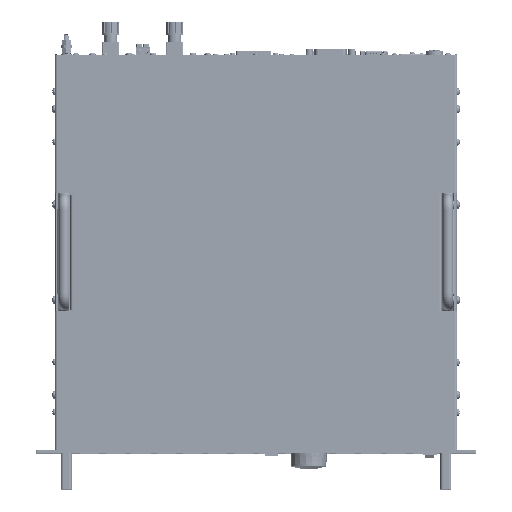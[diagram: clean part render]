
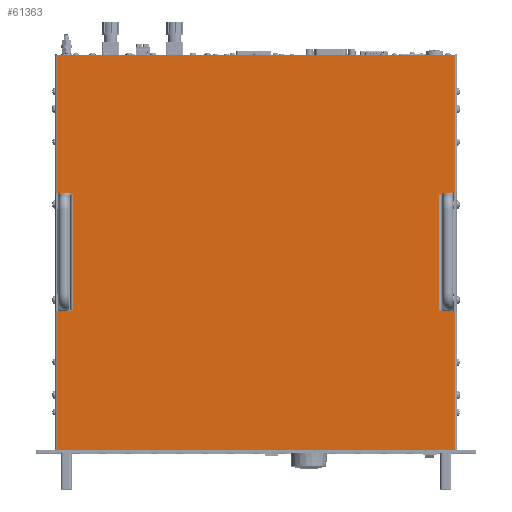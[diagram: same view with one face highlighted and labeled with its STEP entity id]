
A CAD part, top view. The second image highlights one B-rep face of the part: STEP entity #61363.
In plain terms, the highlighted planar face has unit normal (0, 0, 1).
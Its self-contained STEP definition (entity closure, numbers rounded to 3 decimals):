
#61363=ADVANCED_FACE('',(#126413),#126414,.F.);
#126413=FACE_OUTER_BOUND('',#227139,.T.);
#126414=PLANE('',#227140);
#227139=EDGE_LOOP('',(#398217,#398218,#398219,#398220,#398221,#398222,#398223,#398224,#398225,#398226,#398227,#398228,#398229,#398230,#398231,#398232,#398233,#398234,#398235,#398236));
#227140=AXIS2_PLACEMENT_3D('',#398237,#398238,#398239);
#398217=ORIENTED_EDGE('',*,*,#488670,.T.);
#398218=ORIENTED_EDGE('',*,*,#488690,.F.);
#398219=ORIENTED_EDGE('',*,*,#488691,.F.);
#398220=ORIENTED_EDGE('',*,*,#488334,.F.);
#398221=ORIENTED_EDGE('',*,*,#488656,.F.);
#398222=ORIENTED_EDGE('',*,*,#488319,.F.);
#398223=ORIENTED_EDGE('',*,*,#488645,.F.);
#398224=ORIENTED_EDGE('',*,*,#488692,.F.);
#398225=ORIENTED_EDGE('',*,*,#488688,.T.);
#398226=ORIENTED_EDGE('',*,*,#488683,.F.);
#398227=ORIENTED_EDGE('',*,*,#488680,.T.);
#398228=ORIENTED_EDGE('',*,*,#488693,.F.);
#398229=ORIENTED_EDGE('',*,*,#488621,.F.);
#398230=ORIENTED_EDGE('',*,*,#488309,.F.);
#398231=ORIENTED_EDGE('',*,*,#488610,.F.);
#398232=ORIENTED_EDGE('',*,*,#488329,.F.);
#398233=ORIENTED_EDGE('',*,*,#488694,.F.);
#398234=ORIENTED_EDGE('',*,*,#488695,.F.);
#398235=ORIENTED_EDGE('',*,*,#488667,.T.);
#398236=ORIENTED_EDGE('',*,*,#488675,.T.);
#398237=CARTESIAN_POINT('',(239.8,220.125,86.465));
#398238=DIRECTION('',(0.,0.,-1.0));
#398239=DIRECTION('',(1.0,0.,0.));
#488309=EDGE_CURVE('',#591848,#591850,#591851,.T.);
#488319=EDGE_CURVE('',#591866,#591868,#591869,.T.);
#488329=EDGE_CURVE('',#591884,#591886,#591887,.T.);
#488334=EDGE_CURVE('',#591893,#591895,#591896,.T.);
#488610=EDGE_CURVE('',#591886,#591848,#592326,.T.);
#488621=EDGE_CURVE('',#591850,#592341,#592342,.T.);
#488645=EDGE_CURVE('',#592374,#591866,#592376,.T.);
#488656=EDGE_CURVE('',#591868,#591893,#592391,.T.);
#488667=EDGE_CURVE('',#592402,#592405,#592407,.T.);
#488670=EDGE_CURVE('',#592412,#592409,#592413,.T.);
#488675=EDGE_CURVE('',#592405,#592412,#592418,.T.);
#488680=EDGE_CURVE('',#592424,#592422,#592425,.T.);
#488683=EDGE_CURVE('',#592424,#592428,#592429,.T.);
#488688=EDGE_CURVE('',#592434,#592428,#592436,.T.);
#488690=EDGE_CURVE('',#592438,#592409,#592439,.T.);
#488691=EDGE_CURVE('',#591895,#592438,#592440,.T.);
#488692=EDGE_CURVE('',#592434,#592374,#592441,.T.);
#488693=EDGE_CURVE('',#592341,#592422,#592442,.T.);
#488694=EDGE_CURVE('',#592443,#591884,#592444,.T.);
#488695=EDGE_CURVE('',#592402,#592443,#592445,.T.);
#591848=VERTEX_POINT('',#737116);
#591850=VERTEX_POINT('',#737118);
#591851=LINE('',#737119,#737120);
#591866=VERTEX_POINT('',#737138);
#591868=VERTEX_POINT('',#737140);
#591869=LINE('',#737141,#737142);
#591884=VERTEX_POINT('',#737160);
#591886=VERTEX_POINT('',#737162);
#591887=LINE('',#737163,#737164);
#591893=VERTEX_POINT('',#737171);
#591895=VERTEX_POINT('',#737173);
#591896=LINE('',#737174,#737175);
#592326=LINE('',#737726,#737727);
#592341=VERTEX_POINT('',#737747);
#592342=LINE('',#737748,#737749);
#592374=VERTEX_POINT('',#737795);
#592376=LINE('',#737798,#737799);
#592391=LINE('',#737819,#737820);
#592402=VERTEX_POINT('',#737835);
#592405=VERTEX_POINT('',#737839);
#592407=LINE('',#737841,#737842);
#592409=VERTEX_POINT('',#737844);
#592412=VERTEX_POINT('',#737848);
#592413=LINE('',#737849,#737850);
#592418=LINE('',#737855,#737856);
#592422=VERTEX_POINT('',#737861);
#592424=VERTEX_POINT('',#737864);
#592425=LINE('',#737865,#737866);
#592428=VERTEX_POINT('',#737869);
#592429=LINE('',#737870,#737871);
#592434=VERTEX_POINT('',#737876);
#592436=LINE('',#737879,#737880);
#592438=VERTEX_POINT('',#737882);
#592439=LINE('',#737883,#737884);
#592440=LINE('',#737885,#737886);
#592441=LINE('',#737887,#737888);
#592442=LINE('',#737889,#737890);
#592443=VERTEX_POINT('',#737891);
#592444=LINE('',#737892,#737893);
#592445=LINE('',#737894,#737895);
#737116=CARTESIAN_POINT('',(22.123,3.5,86.465));
#737118=CARTESIAN_POINT('',(22.123,155.5,86.465));
#737119=CARTESIAN_POINT('',(22.123,149.813,86.465));
#737120=VECTOR('',#836402,1.0);
#737138=CARTESIAN_POINT('',(22.123,284.75,86.465));
#737140=CARTESIAN_POINT('',(22.123,436.75,86.465));
#737141=CARTESIAN_POINT('',(22.123,290.438,86.465));
#737142=VECTOR('',#836418,1.0);
#737160=CARTESIAN_POINT('',(457.477,155.5,86.465));
#737162=CARTESIAN_POINT('',(457.477,3.5,86.465));
#737163=CARTESIAN_POINT('',(457.477,149.813,86.465));
#737164=VECTOR('',#836434,1.0);
#737171=CARTESIAN_POINT('',(457.477,436.75,86.465));
#737173=CARTESIAN_POINT('',(457.477,284.75,86.465));
#737174=CARTESIAN_POINT('',(457.477,290.438,86.465));
#737175=VECTOR('',#836442,1.0);
#737726=CARTESIAN_POINT('',(460.227,3.5,86.465));
#737727=VECTOR('',#836828,1.0);
#737747=CARTESIAN_POINT('',(37.373,155.5,86.465));
#737748=CARTESIAN_POINT('',(19.373,155.5,86.465));
#737749=VECTOR('',#836846,1.0);
#737795=CARTESIAN_POINT('',(37.373,284.75,86.465));
#737798=CARTESIAN_POINT('',(37.373,284.75,86.465));
#737799=VECTOR('',#836874,1.0);
#737819=CARTESIAN_POINT('',(19.373,436.75,86.465));
#737820=VECTOR('',#836892,1.0);
#737835=CARTESIAN_POINT('',(442.227,157.5,86.465));
#737839=CARTESIAN_POINT('',(440.477,157.5,86.465));
#737841=CARTESIAN_POINT('',(341.093,157.5,86.465));
#737842=VECTOR('',#836904,1.0);
#737844=CARTESIAN_POINT('',(442.227,282.75,86.465));
#737848=CARTESIAN_POINT('',(440.477,282.75,86.465));
#737849=CARTESIAN_POINT('',(341.093,282.75,86.465));
#737850=VECTOR('',#836906,1.0);
#737855=CARTESIAN_POINT('',(440.477,220.125,86.465));
#737856=VECTOR('',#836916,1.0);
#737861=CARTESIAN_POINT('',(37.373,157.5,86.465));
#737864=CARTESIAN_POINT('',(39.123,157.5,86.465));
#737865=CARTESIAN_POINT('',(138.507,157.5,86.465));
#737866=VECTOR('',#836919,1.0);
#737869=CARTESIAN_POINT('',(39.123,282.75,86.465));
#737870=CARTESIAN_POINT('',(39.123,220.125,86.465));
#737871=VECTOR('',#836923,1.0);
#737876=CARTESIAN_POINT('',(37.373,282.75,86.465));
#737879=CARTESIAN_POINT('',(138.507,282.75,86.465));
#737880=VECTOR('',#836931,1.0);
#737882=CARTESIAN_POINT('',(442.227,284.75,86.465));
#737883=CARTESIAN_POINT('',(442.227,284.75,86.465));
#737884=VECTOR('',#836932,1.0);
#737885=CARTESIAN_POINT('',(460.227,284.75,86.465));
#737886=VECTOR('',#836933,1.0);
#737887=CARTESIAN_POINT('',(37.373,282.75,86.465));
#737888=VECTOR('',#836934,1.0);
#737889=CARTESIAN_POINT('',(37.373,155.5,86.465));
#737890=VECTOR('',#836935,1.0);
#737891=CARTESIAN_POINT('',(442.227,155.5,86.465));
#737892=CARTESIAN_POINT('',(442.227,155.5,86.465));
#737893=VECTOR('',#836936,1.0);
#737894=CARTESIAN_POINT('',(442.227,157.5,86.465));
#737895=VECTOR('',#836937,1.0);
#836402=DIRECTION('',(0.0,1.0,0.));
#836418=DIRECTION('',(0.0,1.0,0.));
#836434=DIRECTION('',(0.0,-1.0,0.));
#836442=DIRECTION('',(0.0,-1.0,0.));
#836828=DIRECTION('',(-1.0,0.0,0.));
#836846=DIRECTION('',(1.0,0.0,0.0));
#836874=DIRECTION('',(-1.0,0.0,0.0));
#836892=DIRECTION('',(1.0,0.0,0.0));
#836904=DIRECTION('',(-1.0,0.0,0.0));
#836906=DIRECTION('',(1.0,0.0,0.0));
#836916=DIRECTION('',(0.0,1.0,0.));
#836919=DIRECTION('',(-1.0,0.0,0.0));
#836923=DIRECTION('',(0.0,1.0,0.));
#836931=DIRECTION('',(1.0,0.0,0.0));
#836932=DIRECTION('',(0.0,-1.0,0.));
#836933=DIRECTION('',(-1.0,0.0,0.0));
#836934=DIRECTION('',(0.0,1.0,0.));
#836935=DIRECTION('',(0.0,1.0,0.));
#836936=DIRECTION('',(1.0,0.0,0.0));
#836937=DIRECTION('',(0.0,-1.0,0.));
